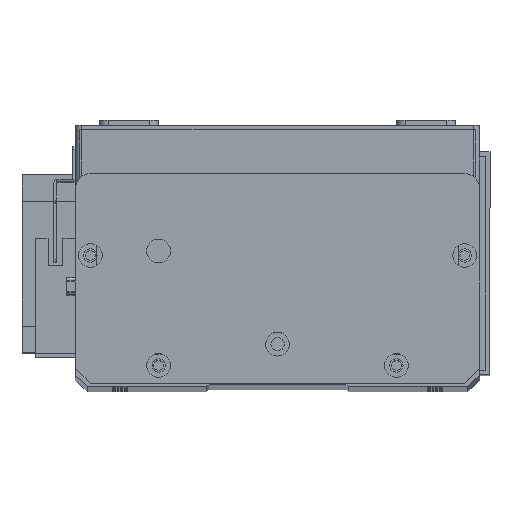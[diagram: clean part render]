
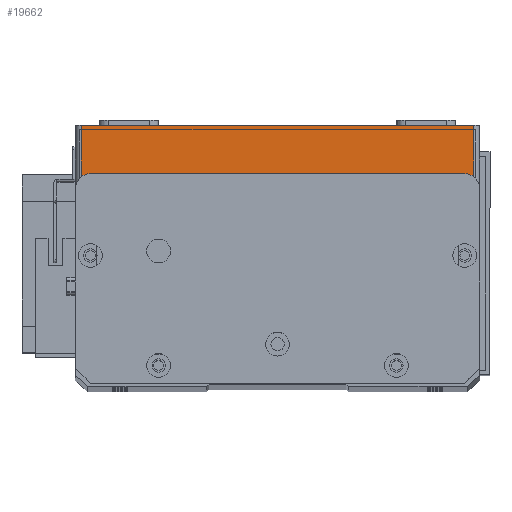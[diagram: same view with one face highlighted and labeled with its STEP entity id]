
A CAD part, top view. The second image highlights one B-rep face of the part: STEP entity #19662.
In plain terms, the highlighted planar face has unit normal (0, 0, 1) as drawn and (0, -1, 0) by its records, which use the part's own axes.
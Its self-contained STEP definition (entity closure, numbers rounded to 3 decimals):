
#616 = ORIENTED_EDGE ( 'NONE', *, *, #4125, .F. ) ;
#839 = CARTESIAN_POINT ( 'NONE',  ( 0., 0., 19.5 ) ) ;
#944 = DIRECTION ( 'NONE',  ( 0., 0., 1. ) ) ;
#1570 = AXIS2_PLACEMENT_3D ( 'NONE', #839, #14440, #944 ) ;
#2165 = VECTOR ( 'NONE', #13503, 1000. ) ;
#2199 = DIRECTION ( 'NONE',  ( 1., 0., 0. ) ) ;
#3826 = VECTOR ( 'NONE', #14168, 1000. ) ;
#4125 = EDGE_CURVE ( 'NONE', #25282, #24154, #20871, .T. ) ;
#4292 = EDGE_CURVE ( 'NONE', #6507, #24154, #10497, .T. ) ;
#5555 = ORIENTED_EDGE ( 'NONE', *, *, #9757, .T. ) ;
#6507 = VERTEX_POINT ( 'NONE', #24582 ) ;
#8695 = LINE ( 'NONE', #8865, #13994 ) ;
#8865 = CARTESIAN_POINT ( 'NONE',  ( 0., 0., 0. ) ) ;
#9035 = CARTESIAN_POINT ( 'NONE',  ( 0., 0., 19.5 ) ) ;
#9145 = DIRECTION ( 'NONE',  ( 1., 0., 0. ) ) ;
#9757 = EDGE_CURVE ( 'NONE', #25282, #18344, #14127, .T. ) ;
#10497 = LINE ( 'NONE', #18083, #3826 ) ;
#11573 = FACE_OUTER_BOUND ( 'NONE', #14060, .T. ) ;
#13503 = DIRECTION ( 'NONE',  ( 0., 0., -1. ) ) ;
#13994 = VECTOR ( 'NONE', #2199, 1000. ) ;
#14051 = VECTOR ( 'NONE', #9145, 1000. ) ;
#14060 = EDGE_LOOP ( 'NONE', ( #616, #5555, #15497, #21542 ) ) ;
#14127 = LINE ( 'NONE', #14217, #2165 ) ;
#14168 = DIRECTION ( 'NONE',  ( 0., 0., 1. ) ) ;
#14217 = CARTESIAN_POINT ( 'NONE',  ( 2., 0., 19.5 ) ) ;
#14440 = DIRECTION ( 'NONE',  ( 0., 1., 0. ) ) ;
#15497 = ORIENTED_EDGE ( 'NONE', *, *, #22530, .T. ) ;
#18083 = CARTESIAN_POINT ( 'NONE',  ( 134., 0., 19.5 ) ) ;
#18344 = VERTEX_POINT ( 'NONE', #26422 ) ;
#19662 = ADVANCED_FACE ( 'NONE', ( #11573 ), #27969, .F. ) ;
#20718 = CARTESIAN_POINT ( 'NONE',  ( 2., 0., 19.5 ) ) ;
#20871 = LINE ( 'NONE', #9035, #14051 ) ;
#21542 = ORIENTED_EDGE ( 'NONE', *, *, #4292, .T. ) ;
#22530 = EDGE_CURVE ( 'NONE', #18344, #6507, #8695, .T. ) ;
#24154 = VERTEX_POINT ( 'NONE', #26269 ) ;
#24582 = CARTESIAN_POINT ( 'NONE',  ( 134., 0., 0. ) ) ;
#25282 = VERTEX_POINT ( 'NONE', #20718 ) ;
#26269 = CARTESIAN_POINT ( 'NONE',  ( 134., 0., 19.5 ) ) ;
#26422 = CARTESIAN_POINT ( 'NONE',  ( 2., 0., 0. ) ) ;
#27969 = PLANE ( 'NONE',  #1570 ) ;
